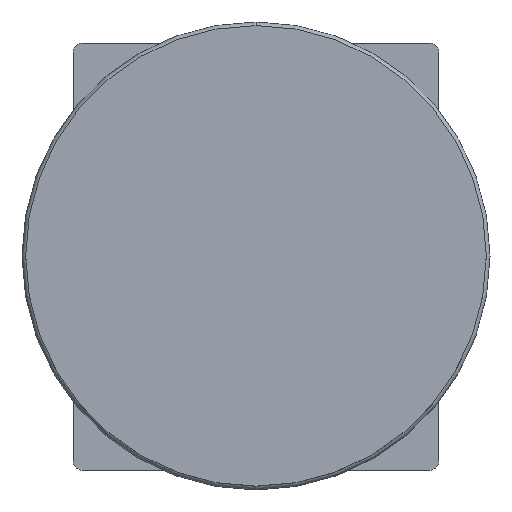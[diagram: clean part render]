
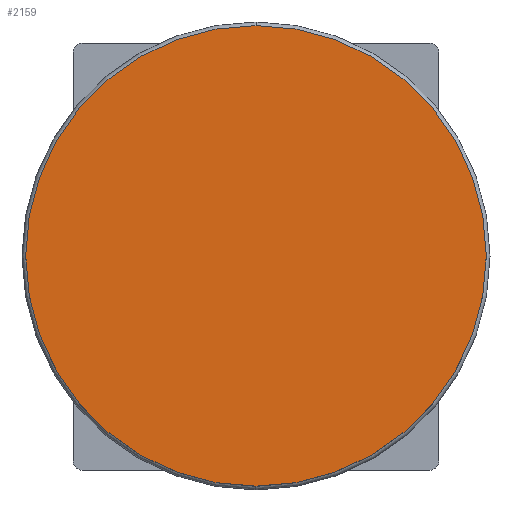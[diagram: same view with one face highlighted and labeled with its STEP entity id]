
A CAD part, top view. The second image highlights one B-rep face of the part: STEP entity #2159.
In plain terms, the highlighted planar face has unit normal (0, 0, 1).
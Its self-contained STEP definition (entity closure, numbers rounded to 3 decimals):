
#586=CARTESIAN_POINT('',(0.,0.,244.3));
#587=DIRECTION('',(0.,0.,-1.));
#588=DIRECTION('',(0.,1.,0.));
#589=AXIS2_PLACEMENT_3D('',#586,#587,#588);
#591=CARTESIAN_POINT('',(0.,0.,244.3));
#592=DIRECTION('',(0.,0.,1.));
#593=DIRECTION('',(0.,1.,0.));
#594=AXIS2_PLACEMENT_3D('',#591,#592,#593);
#629=CARTESIAN_POINT('',(0.,124.,244.3));
#631=VERTEX_POINT('',#629);
#635=CARTESIAN_POINT('',(0.,-124.,244.3));
#637=VERTEX_POINT('',#635);
#2150=CARTESIAN_POINT('',(0.,0.,244.3));
#2151=DIRECTION('',(0.,0.,1.));
#2152=DIRECTION('',(0.,1.,0.));
#2153=AXIS2_PLACEMENT_3D('',#2150,#2151,#2152);
#2154=PLANE('',#2153);
#2155=ORIENTED_EDGE('',*,*,#2132,.T.);
#2156=ORIENTED_EDGE('',*,*,#2143,.F.);
#2157=EDGE_LOOP('',(#2155,#2156));
#2158=FACE_OUTER_BOUND('',#2157,.F.);
#590=CIRCLE('',#589,124.);
#595=CIRCLE('',#594,124.);
#2132=EDGE_CURVE('',#631,#637,#590,.T.);
#2143=EDGE_CURVE('',#631,#637,#595,.T.);
#2159=ADVANCED_FACE('',(#2158),#2154,.T.);
